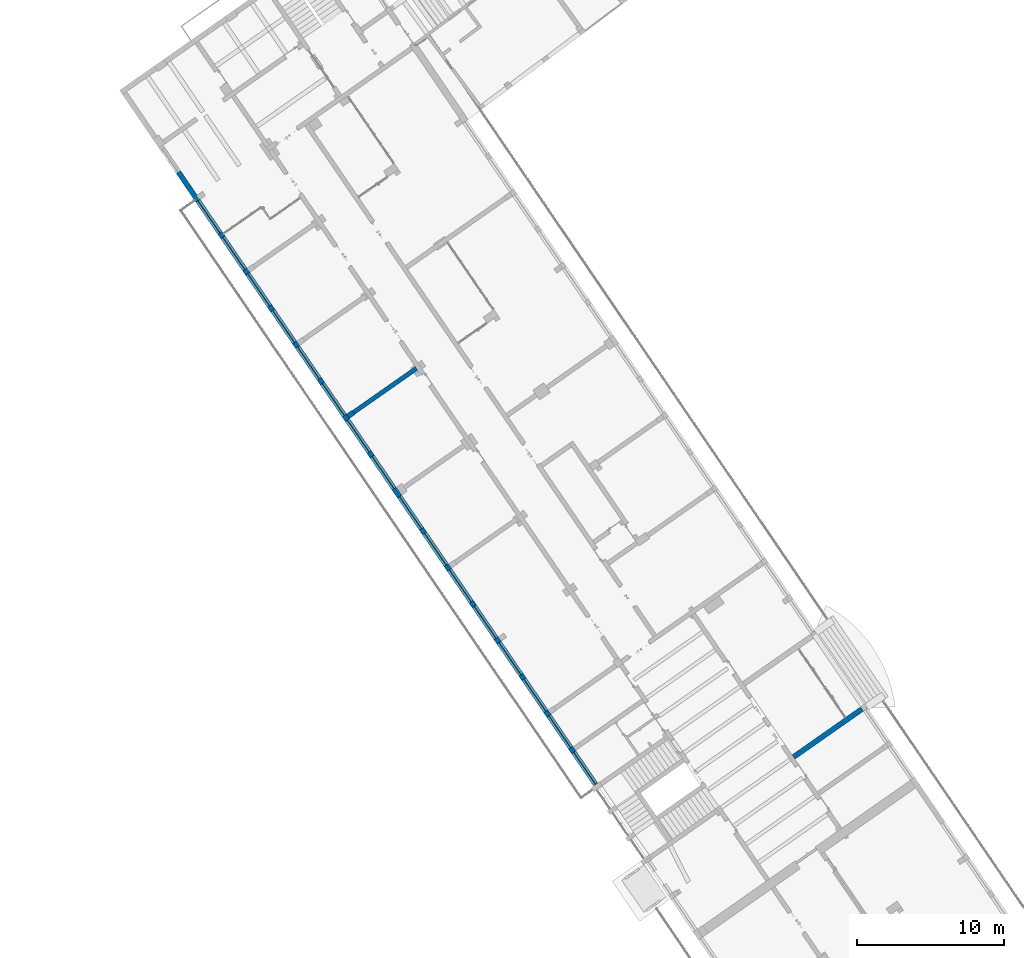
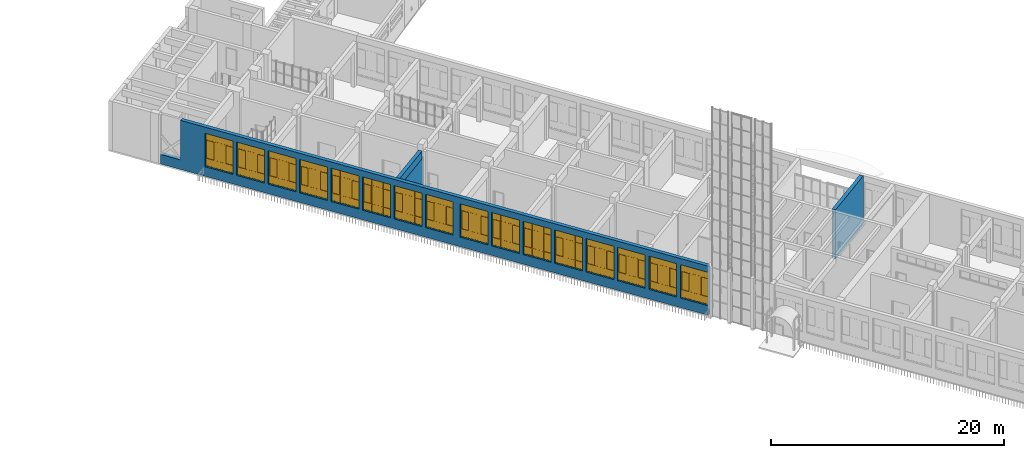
# One storey, part 73 of 157: 16 windows, 4 walls, 18 openings.
"""IFC2X3 building model written with IfcOpenShell, lengths in millimetres."""

from ifc_helpers import new_model, entity, si_unit, converted_unit, derived_unit, direction, frame, frame_2d, origin, origin_2d_with_axis, place, context, subcontext, project, spatial, polyline, rectangle, outline, extrude, source, transform, mapped, material, material_list, layer, layer_set, layer_usage, type_object, type_shapes, element, fill, save


model = new_model("IFC2X3")

# Units and contexts
model_context = context("Model", 3, precision=0.01, world=origin(), true_north=direction((6.123031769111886e-17, 1.0)))
body_context = subcontext(model_context, "Body", "Model", "MODEL_VIEW")
ifc_project = project(units=[si_unit("LENGTHUNIT", "METRE", prefix="MILLI"), si_unit("AREAUNIT", "SQUARE_METRE"), si_unit("VOLUMEUNIT", "CUBIC_METRE"), converted_unit("PLANEANGLEUNIT", "DEGREE", entity("IfcRatioMeasure", 0.017453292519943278), si_unit("PLANEANGLEUNIT", "RADIAN"), dimensions=[0, 0, 0, 0, 0, 0, 0]), si_unit("MASSUNIT", "GRAM", prefix="KILO"), derived_unit("MASSDENSITYUNIT", [(si_unit("MASSUNIT", "GRAM", prefix="KILO"), 1), (si_unit("LENGTHUNIT", "METRE"), -3)]), derived_unit("MOMENTOFINERTIAUNIT", [(si_unit("LENGTHUNIT", "METRE"), 4)]), si_unit("TIMEUNIT", "SECOND"), si_unit("FREQUENCYUNIT", "HERTZ"), si_unit("THERMODYNAMICTEMPERATUREUNIT", "DEGREE_CELSIUS"), derived_unit("THERMALTRANSMITTANCEUNIT", [(si_unit("MASSUNIT", "GRAM", prefix="KILO"), 1), (si_unit("THERMODYNAMICTEMPERATUREUNIT", "KELVIN"), -1), (si_unit("TIMEUNIT", "SECOND"), -3)]), derived_unit("THERMALCONDUCTANCEUNIT", [(si_unit("MASSUNIT", "GRAM", prefix="KILO"), 1), (si_unit("LENGTHUNIT", "METRE"), 1), (si_unit("THERMODYNAMICTEMPERATUREUNIT", "KELVIN"), -1), (si_unit("TIMEUNIT", "SECOND"), -3)]), derived_unit("VOLUMETRICFLOWRATEUNIT", [(si_unit("LENGTHUNIT", "METRE"), 3), (si_unit("TIMEUNIT", "SECOND"), -1)]), derived_unit("MASSFLOWRATEUNIT", [(si_unit("MASSUNIT", "GRAM", prefix="KILO"), 1), (si_unit("TIMEUNIT", "SECOND"), -1)]), derived_unit("ROTATIONALFREQUENCYUNIT", [(si_unit("TIMEUNIT", "SECOND"), -1)]), si_unit("ELECTRICCURRENTUNIT", "AMPERE"), si_unit("ELECTRICVOLTAGEUNIT", "VOLT"), si_unit("POWERUNIT", "WATT"), converted_unit("FORCEUNIT", "KIP", entity("IfcRatioMeasure", 2.088543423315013e-05), si_unit("FORCEUNIT", "NEWTON"), dimensions=[1, 1, -2, 0, 0, 0, 0]), si_unit("ILLUMINANCEUNIT", "LUX"), si_unit("LUMINOUSFLUXUNIT", "LUMEN"), si_unit("LUMINOUSINTENSITYUNIT", "CANDELA"), derived_unit("USERDEFINED", [(si_unit("MASSUNIT", "GRAM", prefix="KILO"), -1), (si_unit("LENGTHUNIT", "METRE"), -2), (si_unit("TIMEUNIT", "SECOND"), 3), (si_unit("LUMINOUSFLUXUNIT", "LUMEN"), 1)]), derived_unit("USERDEFINED", [(si_unit("MASSUNIT", "GRAM", prefix="KILO"), 1), (si_unit("LENGTHUNIT", "METRE"), 3), (si_unit("TIMEUNIT", "SECOND"), -3), (si_unit("ELECTRICCURRENTUNIT", "AMPERE"), -2)]), derived_unit("USERDEFINED", [(si_unit("LENGTHUNIT", "METRE"), 2), (si_unit("TIMEUNIT", "SECOND"), -2)]), derived_unit("SOUNDPOWERUNIT", [(si_unit("MASSUNIT", "GRAM", prefix="KILO"), 1), (si_unit("LENGTHUNIT", "METRE"), 2), (si_unit("TIMEUNIT", "SECOND"), -3)]), derived_unit("SOUNDPRESSUREUNIT", [(si_unit("MASSUNIT", "GRAM", prefix="KILO"), 1), (si_unit("LENGTHUNIT", "METRE"), -1), (si_unit("TIMEUNIT", "SECOND"), -2)]), derived_unit("LINEARVELOCITYUNIT", [(si_unit("LENGTHUNIT", "METRE"), 1), (si_unit("TIMEUNIT", "SECOND"), -1)]), si_unit("PRESSUREUNIT", "PASCAL"), derived_unit("USERDEFINED", [(si_unit("LENGTHUNIT", "METRE"), -2), (si_unit("MASSUNIT", "GRAM", prefix="KILO"), 1), (si_unit("TIMEUNIT", "SECOND"), -2)]), derived_unit("LINEARFORCEUNIT", [(si_unit("MASSUNIT", "GRAM", prefix="KILO"), 1), (si_unit("LENGTHUNIT", "METRE"), 1), (si_unit("TIMEUNIT", "SECOND"), -2), (si_unit("LENGTHUNIT", "METRE"), -1)]), derived_unit("PLANARFORCEUNIT", [(si_unit("MASSUNIT", "GRAM", prefix="KILO"), 1), (si_unit("LENGTHUNIT", "METRE"), 1), (si_unit("TIMEUNIT", "SECOND"), -2), (si_unit("LENGTHUNIT", "METRE"), -2)]), derived_unit("SPECIFICHEATCAPACITYUNIT", [(si_unit("LENGTHUNIT", "METRE"), 2), (si_unit("TIMEUNIT", "SECOND"), -2), (si_unit("THERMODYNAMICTEMPERATUREUNIT", "KELVIN"), -1)]), derived_unit("VAPORPERMEABILITYUNIT", [(si_unit("TIMEUNIT", "SECOND"), 1), (si_unit("LENGTHUNIT", "METRE"), -1)]), derived_unit("DYNAMICVISCOSITYUNIT", [(si_unit("MASSUNIT", "GRAM", prefix="KILO"), 1), (si_unit("LENGTHUNIT", "METRE"), -1), (si_unit("TIMEUNIT", "SECOND"), -1)]), derived_unit("THERMALEXPANSIONCOEFFICIENTUNIT", [(si_unit("THERMODYNAMICTEMPERATUREUNIT", "KELVIN"), -1)])], contexts=[model_context])

# Site, building, storey
site_placement = place(None, frame((0.0, 0.0, 0.0), z_axis=(0.0, 0.0, 1.0), x_axis=(0.8191520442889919, 0.5735764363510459, 0.0)))
site = spatial("IfcSite", under=ifc_project, at=site_placement, Name="Default", CompositionType="ELEMENT")
building_placement = place(site_placement, origin())
building = spatial("IfcBuilding", under=site, at=building_placement, CompositionType="ELEMENT")
storey_placement = place(building_placement, origin())
storey = spatial("IfcBuildingStorey", under=building, at=storey_placement, Name="1.EG +0.00", CompositionType="ELEMENT", Elevation=-4.331468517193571e-12)

# Wall, openings, windows
ifc_material_1 = material(Name="Analytical Wall Surface_CJC")
ifc_layer_1 = layer(ifc_material_1, 350.0)
ifc_layer_set_1 = layer_set([ifc_layer_1], Name="Basic Wall:Wand_Aussen_35")
ifc_layer_usage_1 = layer_usage(ifc_layer_set_1, "AXIS2", "NEGATIVE", 175.0)
wall_type_1 = type_object("IfcWallType", Name="Basic Wall:Wand_Aussen_35", PredefinedType="STANDARD", material=ifc_layer_set_1)
wall_1_placement = place(storey_placement, frame((-222921.0887286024, 115869.13238393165, 0.0), z_axis=(0.0, 0.0, 1.0), x_axis=(0.012723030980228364, 0.9999190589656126, 0.0)))
wall_1 = element("IfcWallStandardCase", 1, at=wall_1_placement, inside=storey, type_object=wall_type_1, material=ifc_layer_usage_1, Name="Basic Wall:Wand_Aussen_35", ObjectType="Basic Wall:Wand_Aussen_35", context=body_context, shape_type="SweptSolid", body=[
    extrude(rectangle(XDim=52204.21246832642, YDim=350.0000000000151, at=frame_2d((26102.10623416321, 7.489120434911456e-12), x_axis=(-1.0, 0.0))), origin(), (0.0, 0.0, 1.0), 5150.000000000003),
])
opening_1_placement = place(wall_1_placement, origin())
element("IfcOpeningElement", 2, at=opening_1_placement, cuts=wall_1, Name="Basic Wall:Wand_Aussen_35", ObjectType="Opening", context=body_context, shape_type="SweptSolid", body=[
    extrude(rectangle(XDim=4150.000000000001, YDim=1900.2560440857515, at=frame_2d((0.0, 2.2737367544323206e-13), x_axis=(1.0, 0.0))), frame((51254.08444628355, 175.0, 3075.0), z_axis=(0.0, -1.0, 0.0), x_axis=(0.0, 0.0, 1.0)), (0.0, 0.0, 1.0), 350.0),
])
opening_2_placement = place(wall_1_placement, frame((4.836144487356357, -175.0, 1000.0)))
opening_2 = element("IfcOpeningElement", 3, at=opening_2_placement, cuts=wall_1, Name="Fenster_Aussen_CJC:Fenster_Aussen_CJC_265x350:1", ObjectType="Opening", context=body_context, shape_type="SweptSolid", body=[
    extrude(rectangle(XDim=3499.999999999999, YDim=2650.0, at=frame_2d((1749.9999999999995, 1325.0), x_axis=(1.0, 0.0))), frame((0.0, 0.0, 0.0), z_axis=(0.0, 1.0, 0.0), x_axis=(0.0, 0.0, 1.0)), (0.0, 0.0, 1.0), 349.99999999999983),
])
opening_3_placement = place(wall_1_placement, frame((3004.83614448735, -175.0, 1000.0)))
opening_3 = element("IfcOpeningElement", 4, at=opening_3_placement, cuts=wall_1, Name="Fenster_Aussen_CJC:Fenster_Aussen_CJC_265x350:1", ObjectType="Opening", context=body_context, shape_type="SweptSolid", body=[
    extrude(rectangle(XDim=3499.999999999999, YDim=2650.0, at=frame_2d((1749.9999999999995, 1325.0), x_axis=(1.0, 0.0))), frame((0.0, 0.0, 0.0), z_axis=(0.0, 1.0, 0.0), x_axis=(0.0, 0.0, 1.0)), (0.0, 0.0, 1.0), 349.99999999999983),
])
opening_4_placement = place(wall_1_placement, frame((6004.836144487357, -175.0, 1000.0)))
opening_4 = element("IfcOpeningElement", 5, at=opening_4_placement, cuts=wall_1, Name="Fenster_Aussen_CJC:Fenster_Aussen_CJC_265x350:1", ObjectType="Opening", context=body_context, shape_type="SweptSolid", body=[
    extrude(rectangle(XDim=3499.999999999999, YDim=2650.0000000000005, at=frame_2d((1749.9999999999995, 1325.0000000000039), x_axis=(1.0, 0.0))), frame((0.0, 0.0, 0.0), z_axis=(0.0, 1.0, 0.0), x_axis=(0.0, 0.0, 1.0)), (0.0, 0.0, 1.0), 349.99999999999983),
])
opening_5_placement = place(wall_1_placement, frame((9004.836144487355, -175.0, 1000.0)))
opening_5 = element("IfcOpeningElement", 6, at=opening_5_placement, cuts=wall_1, Name="Fenster_Aussen_CJC:Fenster_Aussen_CJC_265x350:1", ObjectType="Opening", context=body_context, shape_type="SweptSolid", body=[
    extrude(rectangle(XDim=3499.999999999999, YDim=2650.0, at=frame_2d((1749.9999999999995, 1324.9999999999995), x_axis=(1.0, 0.0))), frame((0.0, 0.0, 0.0), z_axis=(0.0, 1.0, 0.0), x_axis=(0.0, 0.0, 1.0)), (0.0, 0.0, 1.0), 349.99999999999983),
])
opening_6_placement = place(wall_1_placement, frame((12004.836144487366, -175.0, 1000.0)))
opening_6 = element("IfcOpeningElement", 7, at=opening_6_placement, cuts=wall_1, Name="Fenster_Aussen_CJC:Fenster_Aussen_CJC_265x350:1", ObjectType="Opening", context=body_context, shape_type="SweptSolid", body=[
    extrude(rectangle(XDim=3499.999999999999, YDim=2650.0, at=frame_2d((1749.9999999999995, 1324.9999999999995), x_axis=(1.0, 0.0))), frame((0.0, 0.0, 0.0), z_axis=(0.0, 1.0, 0.0), x_axis=(0.0, 0.0, 1.0)), (0.0, 0.0, 1.0), 349.99999999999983),
])
opening_7_placement = place(wall_1_placement, frame((15004.836144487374, -175.0, 1000.0)))
opening_7 = element("IfcOpeningElement", 8, at=opening_7_placement, cuts=wall_1, Name="Fenster_Aussen_CJC:Fenster_Aussen_CJC_265x350:1", ObjectType="Opening", context=body_context, shape_type="SweptSolid", body=[
    extrude(rectangle(XDim=3499.999999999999, YDim=2650.0000000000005, at=frame_2d((1749.9999999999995, 1325.0000000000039), x_axis=(1.0, 0.0))), frame((0.0, 0.0, 0.0), z_axis=(0.0, 1.0, 0.0), x_axis=(0.0, 0.0, 1.0)), (0.0, 0.0, 1.0), 349.99999999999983),
])
opening_8_placement = place(wall_1_placement, frame((18004.836144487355, -175.0, 1000.0)))
opening_8 = element("IfcOpeningElement", 9, at=opening_8_placement, cuts=wall_1, Name="Fenster_Aussen_CJC:Fenster_Aussen_CJC_265x350:1", ObjectType="Opening", context=body_context, shape_type="SweptSolid", body=[
    extrude(rectangle(XDim=3499.999999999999, YDim=2650.0, at=frame_2d((1749.9999999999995, 1324.9999999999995), x_axis=(1.0, 0.0))), frame((0.0, 0.0, 0.0), z_axis=(0.0, 1.0, 0.0), x_axis=(0.0, 0.0, 1.0)), (0.0, 0.0, 1.0), 349.99999999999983),
])
opening_9_placement = place(wall_1_placement, frame((21004.83614448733, -175.0, 1000.0)))
opening_9 = element("IfcOpeningElement", 10, at=opening_9_placement, cuts=wall_1, Name="Fenster_Aussen_CJC:Fenster_Aussen_CJC_265x350:1", ObjectType="Opening", context=body_context, shape_type="SweptSolid", body=[
    extrude(rectangle(XDim=3499.999999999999, YDim=2650.0, at=frame_2d((1749.9999999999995, 1324.9999999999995), x_axis=(1.0, 0.0))), frame((0.0, 0.0, 0.0), z_axis=(0.0, 1.0, 0.0), x_axis=(0.0, 0.0, 1.0)), (0.0, 0.0, 1.0), 349.99999999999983),
])
opening_10_placement = place(wall_1_placement, frame((24304.83614448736, -175.0, 1000.0)))
opening_10 = element("IfcOpeningElement", 11, at=opening_10_placement, cuts=wall_1, Name="Fenster_Aussen_CJC:Fenster_Aussen_CJC_265x350:1", ObjectType="Opening", context=body_context, shape_type="SweptSolid", body=[
    extrude(rectangle(XDim=3499.999999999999, YDim=2650.0, at=frame_2d((1749.9999999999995, 1324.9999999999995), x_axis=(1.0, 0.0))), frame((0.0, 0.0, 0.0), z_axis=(0.0, 1.0, 0.0), x_axis=(0.0, 0.0, 1.0)), (0.0, 0.0, 1.0), 349.99999999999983),
])
opening_11_placement = place(wall_1_placement, frame((27304.836144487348, -175.0, 1000.0)))
opening_11 = element("IfcOpeningElement", 12, at=opening_11_placement, cuts=wall_1, Name="Fenster_Aussen_CJC:Fenster_Aussen_CJC_265x350:1", ObjectType="Opening", context=body_context, shape_type="SweptSolid", body=[
    extrude(rectangle(XDim=3499.999999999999, YDim=2650.0000000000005, at=frame_2d((1749.9999999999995, 1325.0000000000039), x_axis=(1.0, 0.0))), frame((0.0, 0.0, 0.0), z_axis=(0.0, 1.0, 0.0), x_axis=(0.0, 0.0, 1.0)), (0.0, 0.0, 1.0), 349.99999999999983),
])
opening_12_placement = place(wall_1_placement, frame((30304.836144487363, -175.0, 1000.0)))
opening_12 = element("IfcOpeningElement", 13, at=opening_12_placement, cuts=wall_1, Name="Fenster_Aussen_CJC:Fenster_Aussen_CJC_265x350:1", ObjectType="Opening", context=body_context, shape_type="SweptSolid", body=[
    extrude(rectangle(XDim=3499.999999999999, YDim=2650.0, at=frame_2d((1749.9999999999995, 1324.9999999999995), x_axis=(1.0, 0.0))), frame((0.0, 0.0, 0.0), z_axis=(0.0, 1.0, 0.0), x_axis=(0.0, 0.0, 1.0)), (0.0, 0.0, 1.0), 349.99999999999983),
])
opening_13_placement = place(wall_1_placement, frame((33304.83614448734, -175.0, 1000.0)))
opening_13 = element("IfcOpeningElement", 14, at=opening_13_placement, cuts=wall_1, Name="Fenster_Aussen_CJC:Fenster_Aussen_CJC_265x350:1", ObjectType="Opening", context=body_context, shape_type="SweptSolid", body=[
    extrude(rectangle(XDim=3499.999999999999, YDim=2650.0, at=frame_2d((1749.9999999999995, 1324.9999999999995), x_axis=(1.0, 0.0))), frame((0.0, 0.0, 0.0), z_axis=(0.0, 1.0, 0.0), x_axis=(0.0, 0.0, 1.0)), (0.0, 0.0, 1.0), 349.99999999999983),
])
opening_14_placement = place(wall_1_placement, frame((36304.836144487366, -175.0, 1000.0)))
opening_14 = element("IfcOpeningElement", 15, at=opening_14_placement, cuts=wall_1, Name="Fenster_Aussen_CJC:Fenster_Aussen_CJC_265x350:1", ObjectType="Opening", context=body_context, shape_type="SweptSolid", body=[
    extrude(rectangle(XDim=3499.999999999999, YDim=2650.0, at=frame_2d((1749.9999999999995, 1324.9999999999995), x_axis=(1.0, 0.0))), frame((0.0, 0.0, 0.0), z_axis=(0.0, 1.0, 0.0), x_axis=(0.0, 0.0, 1.0)), (0.0, 0.0, 1.0), 349.99999999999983),
])
opening_15_placement = place(wall_1_placement, frame((39304.83614448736, -175.0, 1000.0)))
opening_15 = element("IfcOpeningElement", 16, at=opening_15_placement, cuts=wall_1, Name="Fenster_Aussen_CJC:Fenster_Aussen_CJC_265x350:1", ObjectType="Opening", context=body_context, shape_type="SweptSolid", body=[
    extrude(rectangle(XDim=3499.999999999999, YDim=2650.0000000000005, at=frame_2d((1749.9999999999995, 1325.0000000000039), x_axis=(1.0, 0.0))), frame((0.0, 0.0, 0.0), z_axis=(0.0, 1.0, 0.0), x_axis=(0.0, 0.0, 1.0)), (0.0, 0.0, 1.0), 349.99999999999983),
])
opening_16_placement = place(wall_1_placement, frame((42304.836144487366, -175.0, 1000.0)))
opening_16 = element("IfcOpeningElement", 17, at=opening_16_placement, cuts=wall_1, Name="Fenster_Aussen_CJC:Fenster_Aussen_CJC_265x350:1", ObjectType="Opening", context=body_context, shape_type="SweptSolid", body=[
    extrude(rectangle(XDim=3499.999999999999, YDim=2650.0, at=frame_2d((1749.9999999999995, 1325.0000000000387), x_axis=(1.0, 0.0))), frame((0.0, 0.0, 0.0), z_axis=(0.0, 1.0, 0.0), x_axis=(0.0, 0.0, 1.0)), (0.0, 0.0, 1.0), 349.99999999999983),
])
opening_17_placement = place(wall_1_placement, frame((45304.83614448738, -175.0, 1000.0)))
opening_17 = element("IfcOpeningElement", 18, at=opening_17_placement, cuts=wall_1, Name="Fenster_Aussen_CJC:Fenster_Aussen_CJC_265x350:1", ObjectType="Opening", context=body_context, shape_type="SweptSolid", body=[
    extrude(rectangle(XDim=3499.999999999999, YDim=2650.0000000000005, at=frame_2d((1749.9999999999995, 1325.0000000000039), x_axis=(1.0, 0.0))), frame((0.0, 0.0, 0.0), z_axis=(0.0, 1.0, 0.0), x_axis=(0.0, 0.0, 1.0)), (0.0, 0.0, 1.0), 349.99999999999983),
])
ifc_material_2 = material(Name="Glass")
ifc_material_3 = material(Name="<Unnamed>")
ifc_material_list = material_list([ifc_material_2, ifc_material_3])
window_style = type_object("IfcWindowStyle", Name="Fenster_Aussen_CJC:Fenster_Aussen_CJC_265x350", ConstructionType="NOTDEFINED", OperationType="NOTDEFINED", ParameterTakesPrecedence=False, Sizeable=False, material=ifc_material_list)
shared_shape = source(origin(), body_context, "Body", "SweptSolid", [
    extrude(rectangle(XDim=9.999999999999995, YDim=700.0000000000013, at=frame_2d((0.0, -5.684341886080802e-14), x_axis=(1.0, 0.0))), frame((400.0, 175.0, 2750.0), z_axis=(0.0, 0.0, 1.0), x_axis=(0.0, 1.0, 0.0)), (0.0, 0.0, 1.0), 700.0000000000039),
    extrude(rectangle(XDim=9.999999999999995, YDim=700.0000000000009, at=frame_2d((0.0, -1.4210854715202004e-13), x_axis=(1.0, 0.0))), frame((2250.0, 175.0, 2750.0), z_axis=(0.0, 0.0, 1.0), x_axis=(0.0, 1.0, 0.0)), (0.0, 0.0, 1.0), 699.9999999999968),
    extrude(rectangle(XDim=9.999999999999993, YDim=1050.0000000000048, at=frame_2d((0.0, -1.1368683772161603e-13), x_axis=(1.0, 0.0))), frame((1325.0, 175.0, 2750.0), z_axis=(0.0, 0.0, 1.0), x_axis=(0.0, 1.0, 0.0)), (0.0, 0.0, 1.0), 699.9999999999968),
    extrude(rectangle(XDim=9.999999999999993, YDim=1050.00000000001, at=origin_2d_with_axis()), frame((1325.0, 175.0, 800.0), z_axis=(0.0, 0.0, 1.0), x_axis=(0.0, 1.0, 0.0)), (0.0, 0.0, 1.0), 1899.9999999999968),
    extrude(rectangle(XDim=9.999999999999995, YDim=699.9999999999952, at=origin_2d_with_axis()), frame((2250.0, 175.0, 50.0), z_axis=(0.0, 0.0, 1.0), x_axis=(0.0, 1.0, 0.0)), (0.0, 0.0, 1.0), 700.0),
    extrude(rectangle(XDim=9.999999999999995, YDim=700.0000000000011, at=origin_2d_with_axis()), frame((400.0, 175.0, 50.0), z_axis=(0.0, 0.0, 1.0), x_axis=(0.0, 1.0, 0.0)), (0.0, 0.0, 1.0), 699.9999999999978),
    extrude(rectangle(XDim=9.999999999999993, YDim=1050.00000000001, at=origin_2d_with_axis()), frame((1325.0, 175.0, 50.0), z_axis=(0.0, 0.0, 1.0), x_axis=(0.0, 1.0, 0.0)), (0.0, 0.0, 1.0), 699.9999999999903),
    extrude(rectangle(XDim=9.999999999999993, YDim=670.0000000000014, at=frame_2d((2.220446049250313e-15, -5.684341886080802e-14), x_axis=(1.0, 0.0))), frame((400.0, 145.0, 815.0), z_axis=(0.0, 0.0, 1.0), x_axis=(0.0, 1.0, 0.0)), (0.0, 0.0, 1.0), 1870.0000000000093),
    extrude(rectangle(XDim=9.999999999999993, YDim=670.0000000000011, at=frame_2d((0.0, -1.4210854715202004e-13), x_axis=(1.0, 0.0))), frame((2250.0, 145.0, 815.0), z_axis=(0.0, 0.0, 1.0), x_axis=(0.0, 1.0, 0.0)), (0.0, 0.0, 1.0), 1870.0000000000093),
    extrude(outline(polyline([(-365.0, -965.0), (365.0, -965.0), (365.0, 965.0), (-365.0, 965.0), (-365.0, -965.0)]), holes=[polyline([(-335.0, -935.0), (-335.0, 935.0), (335.0, 935.0), (335.0, -935.0), (-335.0, -935.0)])]), frame((2250.0, 130.0, 1750.0), z_axis=(0.0, 1.0, 0.0), x_axis=(1.0, 0.0, 0.0)), (0.0, 0.0, 1.0), 29.999999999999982),
    extrude(outline(polyline([(-365.0, -965.0), (365.0, -965.0), (365.0, 965.0), (-365.0, 965.0), (-365.0, -965.0)]), holes=[polyline([(-335.0, -935.0), (-335.0, 935.0), (335.0, 935.0), (335.0, -935.0), (-335.0, -935.0)])]), frame((400.0, 130.0, 1750.0), z_axis=(0.0, 1.0, 0.0), x_axis=(1.0, 0.0, 0.0)), (0.0, 0.0, 1.0), 29.999999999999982),
    extrude(outline(polyline([(-1325.0, -1750.0), (1325.0, -1750.0), (1325.0, 1750.0), (-1325.0, 1750.0), (-1325.0, -1750.0)]), holes=[polyline([(-575.0, -950.0), (-1275.0, -950.0), (-1275.0, 950.0), (-575.0, 950.0), (-575.0, -950.0)]), polyline([(1275.0, -950.0), (575.0, -950.0), (575.0, 950.0), (1275.0, 950.0), (1275.0, -950.0)]), polyline([(575.0, -1700.0), (575.0, -1000.0), (1275.0, -1000.0), (1275.0, -1700.0), (575.0, -1700.0)]), polyline([(-525.0, -1000.0), (525.0, -1000.0), (525.0, -1700.0), (-525.0, -1700.0), (-525.0, -1000.0)]), polyline([(-1275.0, -1700.0), (-1275.0, -1000.0), (-575.0, -1000.0), (-575.0, -1700.0), (-1275.0, -1700.0)]), polyline([(-1275.0, 1000.0), (-1275.0, 1700.0), (-575.0, 1700.0), (-575.0, 1000.0), (-1275.0, 1000.0)]), polyline([(-525.0, 1000.0), (-525.0, 1700.0), (525.0, 1700.0), (525.0, 1000.0), (-525.0, 1000.0)]), polyline([(1275.0, 1700.0), (1275.0, 1000.0), (575.0, 1000.0), (575.0, 1700.0), (1275.0, 1700.0)]), polyline([(525.0, 950.0), (525.0, -950.0), (-525.0, -950.0), (-525.0, 950.0), (525.0, 950.0)])]), frame((1325.0, 160.0, 1750.0), z_axis=(0.0, 1.0, 0.0), x_axis=(1.0, 0.0, 0.0)), (0.0, 0.0, 1.0), 30.000000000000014),
])
type_shapes(window_style, [shared_shape])
window_1_placement = place(opening_2_placement, origin())
window_1 = element("IfcWindow", 19, at=window_1_placement, inside=storey, type_object=window_style, material=ifc_material_list, Name="Fenster_Aussen_CJC:Fenster_Aussen_CJC_265x350", ObjectType="Fenster_Aussen_CJC:Fenster_Aussen_CJC_265x350", OverallHeight=3499.999999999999, OverallWidth=2650.0000000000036, context=body_context, shape_type="MappedRepresentation", body=[
    mapped(shared_shape, transform((0.0, 0.0, 0.0), scale=1.0)),
])
fill(opening_2, window_1)
window_2_placement = place(opening_3_placement, origin())
window_2 = element("IfcWindow", 20, at=window_2_placement, inside=storey, type_object=window_style, material=ifc_material_list, Name="Fenster_Aussen_CJC:Fenster_Aussen_CJC_265x350", ObjectType="Fenster_Aussen_CJC:Fenster_Aussen_CJC_265x350", OverallHeight=3499.999999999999, OverallWidth=2650.0000000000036, context=body_context, shape_type="MappedRepresentation", body=[
    mapped(shared_shape, transform((0.0, 0.0, 0.0), scale=1.0)),
])
fill(opening_3, window_2)
window_3_placement = place(opening_4_placement, origin())
window_3 = element("IfcWindow", 21, at=window_3_placement, inside=storey, type_object=window_style, material=ifc_material_list, Name="Fenster_Aussen_CJC:Fenster_Aussen_CJC_265x350", ObjectType="Fenster_Aussen_CJC:Fenster_Aussen_CJC_265x350", OverallHeight=3499.999999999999, OverallWidth=2650.0000000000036, context=body_context, shape_type="MappedRepresentation", body=[
    mapped(shared_shape, transform((0.0, 0.0, 0.0), scale=1.0)),
])
fill(opening_4, window_3)
window_4_placement = place(opening_5_placement, origin())
window_4 = element("IfcWindow", 22, at=window_4_placement, inside=storey, type_object=window_style, material=ifc_material_list, Name="Fenster_Aussen_CJC:Fenster_Aussen_CJC_265x350", ObjectType="Fenster_Aussen_CJC:Fenster_Aussen_CJC_265x350", OverallHeight=3499.999999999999, OverallWidth=2650.0000000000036, context=body_context, shape_type="MappedRepresentation", body=[
    mapped(shared_shape, transform((0.0, 0.0, 0.0), scale=1.0)),
])
fill(opening_5, window_4)
window_5_placement = place(opening_6_placement, origin())
window_5 = element("IfcWindow", 23, at=window_5_placement, inside=storey, type_object=window_style, material=ifc_material_list, Name="Fenster_Aussen_CJC:Fenster_Aussen_CJC_265x350", ObjectType="Fenster_Aussen_CJC:Fenster_Aussen_CJC_265x350", OverallHeight=3499.999999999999, OverallWidth=2650.0000000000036, context=body_context, shape_type="MappedRepresentation", body=[
    mapped(shared_shape, transform((0.0, 0.0, 0.0), scale=1.0)),
])
fill(opening_6, window_5)
window_6_placement = place(opening_7_placement, origin())
window_6 = element("IfcWindow", 24, at=window_6_placement, inside=storey, type_object=window_style, material=ifc_material_list, Name="Fenster_Aussen_CJC:Fenster_Aussen_CJC_265x350", ObjectType="Fenster_Aussen_CJC:Fenster_Aussen_CJC_265x350", OverallHeight=3499.999999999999, OverallWidth=2650.0000000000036, context=body_context, shape_type="MappedRepresentation", body=[
    mapped(shared_shape, transform((0.0, 0.0, 0.0), scale=1.0)),
])
fill(opening_7, window_6)
window_7_placement = place(opening_8_placement, origin())
window_7 = element("IfcWindow", 25, at=window_7_placement, inside=storey, type_object=window_style, material=ifc_material_list, Name="Fenster_Aussen_CJC:Fenster_Aussen_CJC_265x350", ObjectType="Fenster_Aussen_CJC:Fenster_Aussen_CJC_265x350", OverallHeight=3499.999999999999, OverallWidth=2649.9999999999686, context=body_context, shape_type="MappedRepresentation", body=[
    mapped(shared_shape, transform((0.0, 0.0, 0.0), scale=1.0)),
])
fill(opening_8, window_7)
window_8_placement = place(opening_9_placement, origin())
window_8 = element("IfcWindow", 26, at=window_8_placement, inside=storey, type_object=window_style, material=ifc_material_list, Name="Fenster_Aussen_CJC:Fenster_Aussen_CJC_265x350", ObjectType="Fenster_Aussen_CJC:Fenster_Aussen_CJC_265x350", OverallHeight=3499.999999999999, OverallWidth=2650.0000000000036, context=body_context, shape_type="MappedRepresentation", body=[
    mapped(shared_shape, transform((0.0, 0.0, 0.0), scale=1.0)),
])
fill(opening_9, window_8)
window_9_placement = place(opening_10_placement, origin())
window_9 = element("IfcWindow", 27, at=window_9_placement, inside=storey, type_object=window_style, material=ifc_material_list, Name="Fenster_Aussen_CJC:Fenster_Aussen_CJC_265x350", ObjectType="Fenster_Aussen_CJC:Fenster_Aussen_CJC_265x350", OverallHeight=3499.999999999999, OverallWidth=2650.0000000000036, context=body_context, shape_type="MappedRepresentation", body=[
    mapped(shared_shape, transform((0.0, 0.0, 0.0), scale=1.0)),
])
fill(opening_10, window_9)
window_10_placement = place(opening_11_placement, origin())
window_10 = element("IfcWindow", 28, at=window_10_placement, inside=storey, type_object=window_style, material=ifc_material_list, Name="Fenster_Aussen_CJC:Fenster_Aussen_CJC_265x350", ObjectType="Fenster_Aussen_CJC:Fenster_Aussen_CJC_265x350", OverallHeight=3499.999999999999, OverallWidth=2650.0000000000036, context=body_context, shape_type="MappedRepresentation", body=[
    mapped(shared_shape, transform((0.0, 0.0, 0.0), scale=1.0)),
])
fill(opening_11, window_10)
window_11_placement = place(opening_12_placement, origin())
window_11 = element("IfcWindow", 29, at=window_11_placement, inside=storey, type_object=window_style, material=ifc_material_list, Name="Fenster_Aussen_CJC:Fenster_Aussen_CJC_265x350", ObjectType="Fenster_Aussen_CJC:Fenster_Aussen_CJC_265x350", OverallHeight=3499.999999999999, OverallWidth=2649.9999999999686, context=body_context, shape_type="MappedRepresentation", body=[
    mapped(shared_shape, transform((0.0, 0.0, 0.0), scale=1.0)),
])
fill(opening_12, window_11)
window_12_placement = place(opening_13_placement, origin())
window_12 = element("IfcWindow", 30, at=window_12_placement, inside=storey, type_object=window_style, material=ifc_material_list, Name="Fenster_Aussen_CJC:Fenster_Aussen_CJC_265x350", ObjectType="Fenster_Aussen_CJC:Fenster_Aussen_CJC_265x350", OverallHeight=3499.999999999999, OverallWidth=2649.9999999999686, context=body_context, shape_type="MappedRepresentation", body=[
    mapped(shared_shape, transform((0.0, 0.0, 0.0), scale=1.0)),
])
fill(opening_13, window_12)
window_13_placement = place(opening_14_placement, origin())
window_13 = element("IfcWindow", 31, at=window_13_placement, inside=storey, type_object=window_style, material=ifc_material_list, Name="Fenster_Aussen_CJC:Fenster_Aussen_CJC_265x350", ObjectType="Fenster_Aussen_CJC:Fenster_Aussen_CJC_265x350", OverallHeight=3499.999999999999, OverallWidth=2650.0000000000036, context=body_context, shape_type="MappedRepresentation", body=[
    mapped(shared_shape, transform((0.0, 0.0, 0.0), scale=1.0)),
])
fill(opening_14, window_13)
window_14_placement = place(opening_15_placement, origin())
window_14 = element("IfcWindow", 32, at=window_14_placement, inside=storey, type_object=window_style, material=ifc_material_list, Name="Fenster_Aussen_CJC:Fenster_Aussen_CJC_265x350", ObjectType="Fenster_Aussen_CJC:Fenster_Aussen_CJC_265x350", OverallHeight=3499.999999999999, OverallWidth=2650.0000000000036, context=body_context, shape_type="MappedRepresentation", body=[
    mapped(shared_shape, transform((0.0, 0.0, 0.0), scale=1.0)),
])
fill(opening_15, window_14)
window_15_placement = place(opening_16_placement, origin())
window_15 = element("IfcWindow", 33, at=window_15_placement, inside=storey, type_object=window_style, material=ifc_material_list, Name="Fenster_Aussen_CJC:Fenster_Aussen_CJC_265x350", ObjectType="Fenster_Aussen_CJC:Fenster_Aussen_CJC_265x350", OverallHeight=3499.999999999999, OverallWidth=2650.0000000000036, context=body_context, shape_type="MappedRepresentation", body=[
    mapped(shared_shape, transform((0.0, 0.0, 0.0), scale=1.0)),
])
fill(opening_16, window_15)
window_16_placement = place(opening_17_placement, origin())
window_16 = element("IfcWindow", 34, at=window_16_placement, inside=storey, type_object=window_style, material=ifc_material_list, Name="Fenster_Aussen_CJC:Fenster_Aussen_CJC_265x350", ObjectType="Fenster_Aussen_CJC:Fenster_Aussen_CJC_265x350", OverallHeight=3499.999999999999, OverallWidth=2650.0000000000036, context=body_context, shape_type="MappedRepresentation", body=[
    mapped(shared_shape, transform((0.0, 0.0, 0.0), scale=1.0)),
])
fill(opening_17, window_16)

# Wall
ifc_layer_2 = layer(ifc_material_1, 300.0)
ifc_layer_set_2 = layer_set([ifc_layer_2], Name="Basic Wall:Wand_Innen_30")
ifc_layer_usage_2 = layer_usage(ifc_layer_set_2, "AXIS2", "NEGATIVE", 150.0)
wall_type_2 = type_object("IfcWallType", Name="Basic Wall:Wand_Innen_30", PredefinedType="STANDARD", material=ifc_layer_set_2)
wall_2_placement = place(storey_placement, frame((-221905.42442382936, 145994.41432674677, 0.0)))
element("IfcWallStandardCase", 35, at=wall_2_placement, inside=storey, type_object=wall_type_2, material=ifc_layer_usage_2, Name="Basic Wall:Wand_Innen_30", ObjectType="Basic Wall:Wand_Innen_30", context=body_context, shape_type="SweptSolid", body=[
    extrude(outline(polyline([(5216.658813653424, -150.0), (5220.477999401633, 150.0), (4917.557302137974, 150.0), (0.0, 150.0), (0.0, -150.0), (4917.557302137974, -150.0), (5216.658813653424, -150.0)])), origin(), (0.0, 0.0, 1.0), 3700.0000000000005),
])

# Wall, opening
ifc_layer_3 = layer(ifc_material_1, 350.0)
ifc_layer_set_3 = layer_set([ifc_layer_3], Name="Basic Wall:Wand_Innen_35")
ifc_layer_usage_3 = layer_usage(ifc_layer_set_3, "AXIS2", "NEGATIVE", 175.0)
wall_type_3 = type_object("IfcWallType", Name="Basic Wall:Wand_Innen_35", PredefinedType="STANDARD", material=ifc_layer_set_3)
wall_3_placement = place(storey_placement, frame((-222367.48917992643, 145994.41432674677, 0.0)))
wall_3 = element("IfcWallStandardCase", 36, at=wall_3_placement, inside=storey, type_object=wall_type_3, material=ifc_layer_usage_3, Name="Basic Wall:Wand_Innen_35", ObjectType="Basic Wall:Wand_Innen_35", context=body_context, shape_type="SweptSolid", body=[
    extrude(rectangle(XDim=5378.149586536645, YDim=349.9999999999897, at=frame_2d((2689.0747932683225, -1.3358203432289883e-12), x_axis=(-1.0, 0.0))), origin(), (0.0, 0.0, 1.0), 4499.9999999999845),
])
opening_18_placement = place(wall_3_placement, origin())
element("IfcOpeningElement", 37, at=opening_18_placement, cuts=wall_3, Name="Basic Wall:Wand_Innen_35", ObjectType="Opening", context=body_context, shape_type="SweptSolid", body=[
    extrude(rectangle(XDim=3699.9999999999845, YDim=4916.084830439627, at=frame_2d((1.7280399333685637e-11, 0.0), x_axis=(0.0, 1.0))), frame((2920.107171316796, 175.0, 1850.0), z_axis=(0.0, -1.0, 0.0), x_axis=(1.0, 0.0, 0.0)), (0.0, 0.0, 1.0), 350.0),
])

# Wall
wall_4_placement = place(storey_placement, frame((-210850.9131929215, 109696.35891435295, 0.0)))
element("IfcWallStandardCase", 38, at=wall_4_placement, inside=storey, type_object=wall_type_3, material=ifc_layer_usage_3, Name="Basic Wall:Wand_Innen_35", ObjectType="Basic Wall:Wand_Innen_35", context=body_context, shape_type="SweptSolid", body=[
    extrude(outline(polyline([(5675.9780602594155, -175.0), (5680.425349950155, 175.0), (4.455716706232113, 175.0), (0.0, -175.0), (5675.9780602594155, -175.0)])), origin(), (0.0, 0.0, 1.0), 5150.000000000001),
])

save(model, "model.ifc")
